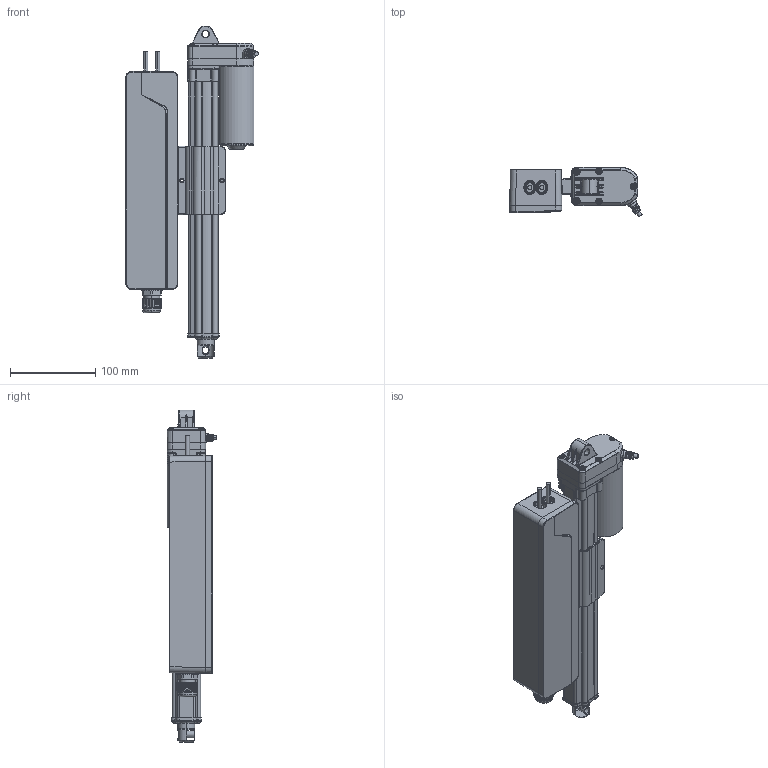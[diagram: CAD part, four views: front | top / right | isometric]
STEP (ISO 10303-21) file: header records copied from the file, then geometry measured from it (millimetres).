
FILE_DESCRIPTION (( 'STEP AP203' ), '1' );
FILE_NAME ('TJC13+TA2P.STEP', '2021-09-13T07:58:51', ( '' ), ( '' ), 'SwSTEP 2.0', 'SolidWorks 2015', '' );
FILE_SCHEMA (( 'CONFIG_CONTROL_DESIGN' ));
Length unit declared in the file: millimetre
Products named in the file (9): 固定座-16^hillrom box_assemble; 防水接頭; TJC13+TA2P; TJB13下蓋; SR-2; SR; TJB13_pcb; 蝴家瓜-TA2P+礚い糷絚砰+炊硄狠+炊硄狠+90杆à-A; TJB13_up housing
Assembly tree (8 placements, depth 2):
  TJC13+TA2P
    固定座-16^hillrom box_assemble
    蝴家瓜-TA2P+礚い糷絚砰+炊硄狠+炊硄狠+90杆à-A
    TJB13_up housing
    TJB13_pcb
    防水接頭
    SR
    SR-2
    TJB13下蓋
Bounding box: 155.11 x 58.13 x 388.41 mm (x, y, z)
Volume: 866374.7 mm3; surface area: 290299.6 mm2
Topology: 11 solids, 11 shells, 2492 faces, 6265 edges, 3826 vertices
Faces by surface type: cylinder 693, plane 630, bspline 526, torus 406, cone 230, sphere 7
Entity records: 116019 total; most frequent: CARTESIAN_POINT 59438, ORIENTED_EDGE 12460, DIRECTION 10796, EDGE_CURVE 6230, AXIS2_PLACEMENT_3D 4291, VERTEX_POINT 3825, EDGE_LOOP 2605, FACE_OUTER_BOUND 2492
